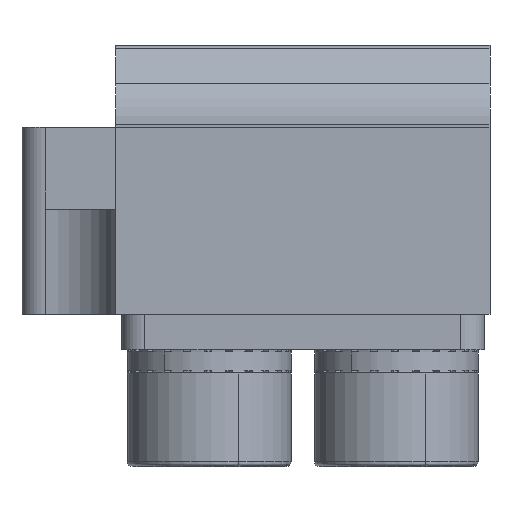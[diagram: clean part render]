
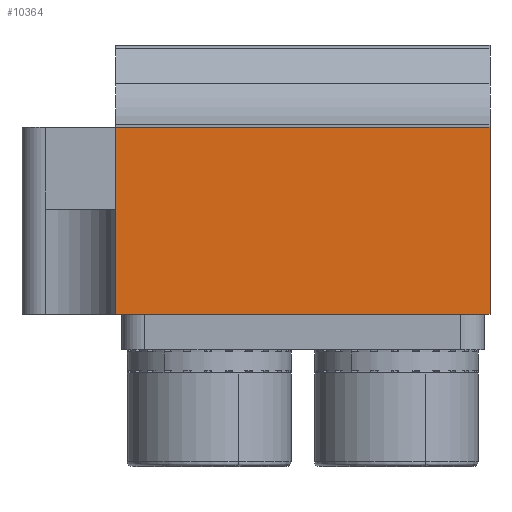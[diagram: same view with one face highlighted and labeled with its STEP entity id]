
A CAD part, front view. The second image highlights one B-rep face of the part: STEP entity #10364.
In plain terms, the highlighted planar face has unit normal (0, -1, 0).
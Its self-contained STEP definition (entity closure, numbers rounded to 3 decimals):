
#4698 = VECTOR ( 'NONE', #27476, 1000. ) ;
#5261 = LINE ( 'NONE', #34993, #27234 ) ;
#6707 = ORIENTED_EDGE ( 'NONE', *, *, #15937, .T. ) ;
#7534 = CARTESIAN_POINT ( 'NONE',  ( -44.464, -15.444, 11.843 ) ) ;
#8993 = EDGE_LOOP ( 'NONE', ( #6707, #26244, #11002, #34096 ) ) ;
#10364 = ADVANCED_FACE ( 'NONE', ( #15610 ), #25210, .T. ) ;
#10459 = VECTOR ( 'NONE', #34751, 1000. ) ;
#10642 = VECTOR ( 'NONE', #33495, 1000. ) ;
#10994 = CARTESIAN_POINT ( 'NONE',  ( -44.464, -15.444, 19.843 ) ) ;
#11002 = ORIENTED_EDGE ( 'NONE', *, *, #22539, .F. ) ;
#11511 = LINE ( 'NONE', #12927, #10642 ) ;
#12730 = LINE ( 'NONE', #25933, #10459 ) ;
#12927 = CARTESIAN_POINT ( 'NONE',  ( -44.464, -15.444, 15.843 ) ) ;
#14028 = VERTEX_POINT ( 'NONE', #26798 ) ;
#14839 = VERTEX_POINT ( 'NONE', #7534 ) ;
#15610 = FACE_OUTER_BOUND ( 'NONE', #8993, .T. ) ;
#15937 = EDGE_CURVE ( 'NONE', #36501, #14839, #11511, .T. ) ;
#16934 = EDGE_CURVE ( 'NONE', #14839, #14028, #12730, .T. ) ;
#17835 = DIRECTION ( 'NONE',  ( -1., 0., 0. ) ) ;
#17894 = CARTESIAN_POINT ( 'NONE',  ( -28.464, -15.444, 19.843 ) ) ;
#19491 = DIRECTION ( 'NONE',  ( 0., 0., -1. ) ) ;
#22284 = VERTEX_POINT ( 'NONE', #17894 ) ;
#22539 = EDGE_CURVE ( 'NONE', #22284, #14028, #24887, .T. ) ;
#24604 = CARTESIAN_POINT ( 'NONE',  ( -28.464, -15.444, 15.843 ) ) ;
#24887 = LINE ( 'NONE', #24604, #4698 ) ;
#25210 = PLANE ( 'NONE',  #35900 ) ;
#25933 = CARTESIAN_POINT ( 'NONE',  ( -36.464, -15.444, 11.843 ) ) ;
#26244 = ORIENTED_EDGE ( 'NONE', *, *, #16934, .T. ) ;
#26798 = CARTESIAN_POINT ( 'NONE',  ( -28.464, -15.444, 11.843 ) ) ;
#27234 = VECTOR ( 'NONE', #17835, 1000. ) ;
#27476 = DIRECTION ( 'NONE',  ( 0., 0., -1. ) ) ;
#30424 = EDGE_CURVE ( 'NONE', #22284, #36501, #5261, .T. ) ;
#33495 = DIRECTION ( 'NONE',  ( 0., 0., -1. ) ) ;
#34096 = ORIENTED_EDGE ( 'NONE', *, *, #30424, .T. ) ;
#34751 = DIRECTION ( 'NONE',  ( 1., 0., 0. ) ) ;
#34993 = CARTESIAN_POINT ( 'NONE',  ( -36.464, -15.444, 19.843 ) ) ;
#35900 = AXIS2_PLACEMENT_3D ( 'NONE', #10994, #37029, #19491 ) ;
#36501 = VERTEX_POINT ( 'NONE', #36635 ) ;
#36635 = CARTESIAN_POINT ( 'NONE',  ( -44.464, -15.444, 19.843 ) ) ;
#37029 = DIRECTION ( 'NONE',  ( 0., -1., 0. ) ) ;
